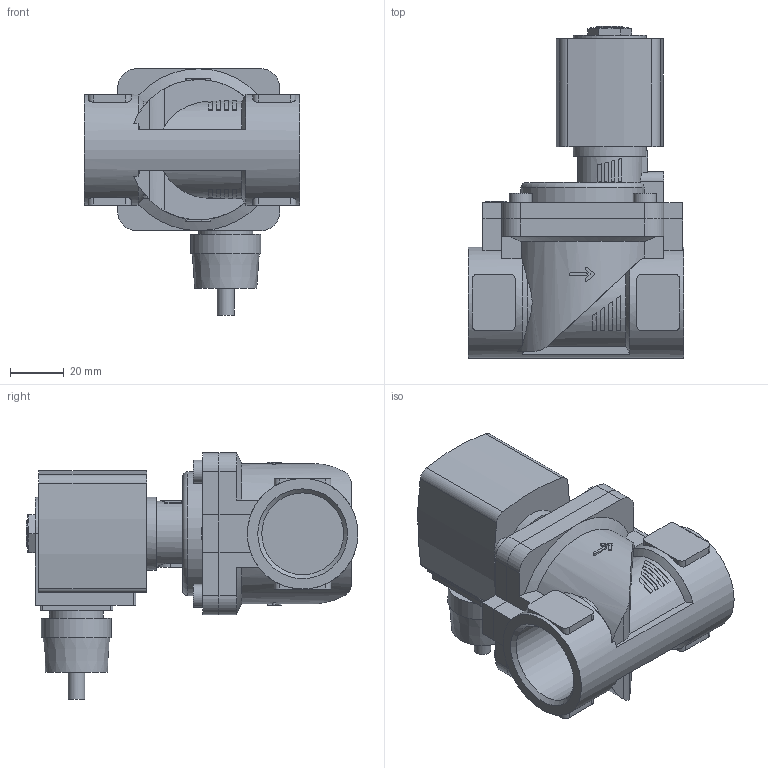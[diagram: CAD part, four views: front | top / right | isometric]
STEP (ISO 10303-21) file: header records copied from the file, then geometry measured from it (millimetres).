
FILE_DESCRIPTION(/* description */ ('STEP AP214'),/* implementation_level */ '2;1');
FILE_NAME(/* name */ '6281-388106-2_2-Way_Solenoid_Valve__Servo-assisted__General_Purpose',/* time_stamp */ '2024-08-20T21:47:36+02:00',/* author */ ('License CC BY-ND 4.0'),/* organization */ ('CADENAS'),/* preprocessor_version */ 'ST-DEVELOPER v19.3',/* originating_system */ 'PARTsolutions',/* authorisation */ ' ');
FILE_SCHEMA (('AUTOMOTIVE_DESIGN {1 0 10303 214 3 1 1}'));
Length unit declared in the file: millimetre
Products named in the file (4): 6281-388106-2/2-Way Solenoid Valve, Servo-assisted, General Purpose; 5281ev200VA2/2-Wege-Magnetventil mit Servomembran-Deckel   ; 6213-20G1VA-Gehaeuse-; AC10ex-6ATEXKabelPlan-Coil
Assembly tree (3 placements, depth 2):
  6281-388106-2/2-Way Solenoid Valve, Servo-assisted, General Purpose
    5281ev200VA2/2-Wege-Magnetventil mit Servomembran-Deckel   
    6213-20G1VA-Gehaeuse-
    AC10ex-6ATEXKabelPlan-Coil
Bounding box: 80 x 123 x 91.3 mm (x, y, z)
Volume: 250652.2 mm3; surface area: 49778.1 mm2
Topology: 3 solids, 3 shells, 300 faces, 763 edges, 503 vertices
Faces by surface type: plane 191, cylinder 91, cone 17, torus 1
Full cylindrical faces by diameter (mm): 6.2 x1, 8.5 x4, 9.74 x1, 20 x1, 26 x1, 27 x1, 30.291 x2, 41 x1
Entity records: 10053 total; most frequent: CARTESIAN_POINT 1813, DIRECTION 1524, ORIENTED_EDGE 1474, EDGE_CURVE 737, AXIS2_PLACEMENT_3D 556, VERTEX_POINT 495, LINE 412, VECTOR 412
